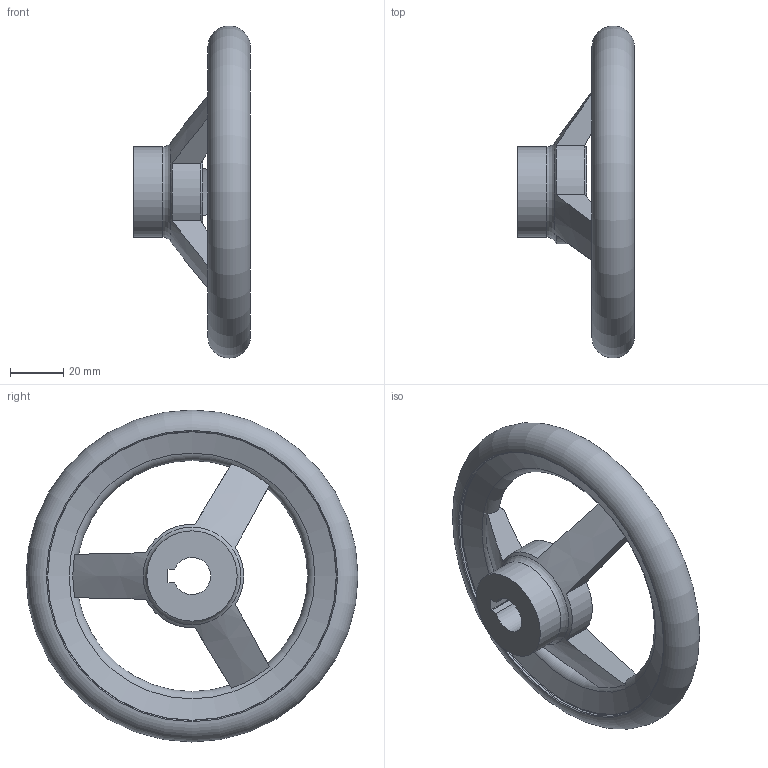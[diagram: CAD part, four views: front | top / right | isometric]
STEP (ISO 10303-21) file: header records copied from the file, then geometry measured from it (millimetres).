
FILE_DESCRIPTION( ( 'STEP AP203' ), '1' );
FILE_NAME( 'C:/Temp/Ganter_Step_05_03_2020/data/1_3/gn_950_1/gn_950_1_k/gn_950_1_k_a/Handwheel GN 950.1-GG-125-K14-A.stp', '2020-03-05T10:32:35', ( 'License CC BY-ND 4.0' ), ( 'CADENAS' ), ' ', 'PARTsolutions', ' ' );
FILE_SCHEMA( ( 'CONFIG_CONTROL_DESIGN' ) );
Length unit declared in the file: millimetre
Products named in the file (1): _Handwheel GN 950.1-GG-125-K14-A
Bounding box: 43.99 x 124.99 x 124.99 mm (x, y, z)
Volume: 101989.8 mm3; surface area: 28450.3 mm2
Topology: 1 solids, 1 shells, 36 faces, 99 edges, 61 vertices
Faces by surface type: torus 11, plane 11, cylinder 10, cone 4
Full cylindrical faces by diameter (mm): 34 x2, 109 x2
Entity records: 1284 total; most frequent: CARTESIAN_POINT 415, DIRECTION 166, ORIENTED_EDGE 158, EDGE_CURVE 79, AXIS2_PLACEMENT_3D 74, VERTEX_POINT 59, EDGE_LOOP 57, FACE_OUTER_BOUND 48
